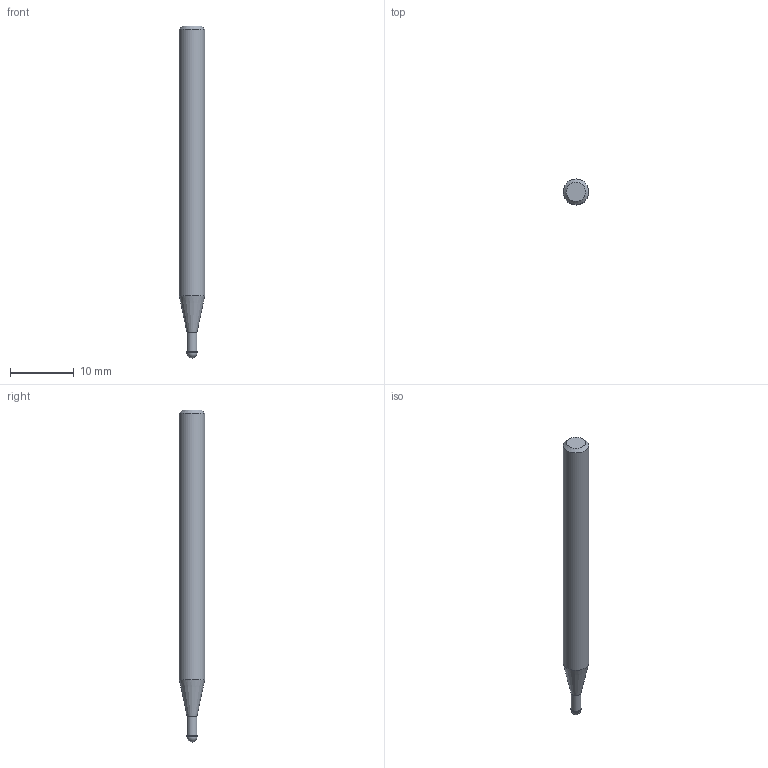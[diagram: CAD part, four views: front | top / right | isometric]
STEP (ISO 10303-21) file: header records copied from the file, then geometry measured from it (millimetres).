
FILE_DESCRIPTION((''),'2;1');
FILE_NAME('C:\Users\nsx150\AppData\Local\Temp\Mastercam 2021\LJSIDMOTM8\TEMP.step','2021-08-03T14:17:50',(''),(''),'STEP Write','Mastercam 2021 ... CNC Software, Inc.','');
FILE_SCHEMA(('AUTOMOTIVE_DESIGN'));
Length unit declared in the file: millimetre
Products named in the file (1): None
Bounding box: 4 x 4 x 52 mm (x, y, z)
Volume: 573.6 mm3; surface area: 614.2 mm2
Topology: 2 solids, 2 shells, 9 faces, 14 edges, 8 vertices
Faces by surface type: plane 3, cylinder 3, cone 2, sphere 1
Full cylindrical faces by diameter (mm): 1.55 x1, 1.6 x1, 4 x1
Entity records: 211 total; most frequent: DIRECTION 36, CARTESIAN_POINT 25, AXIS2_PLACEMENT_3D 18, ORIENTED_EDGE 14, EDGE_LOOP 14, STYLED_ITEM 12, ADVANCED_FACE 9, FACE_BOUND 8
